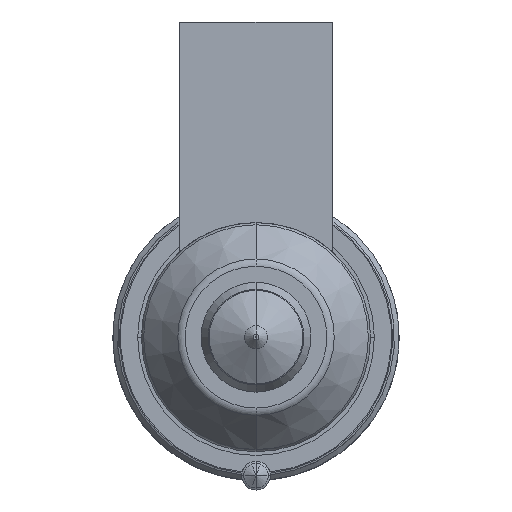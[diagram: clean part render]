
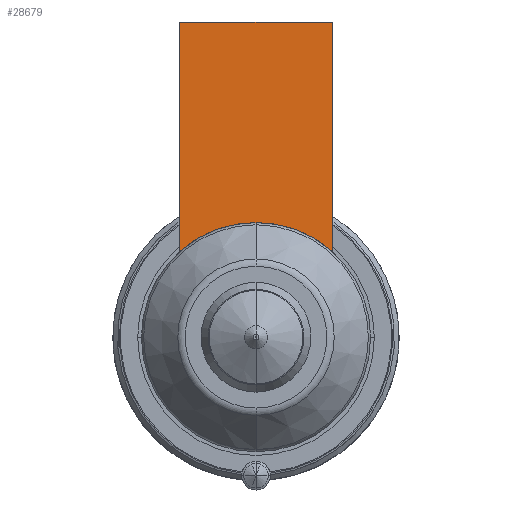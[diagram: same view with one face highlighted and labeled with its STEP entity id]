
A CAD part, front view. The second image highlights one B-rep face of the part: STEP entity #28679.
In plain terms, the highlighted planar face has unit normal (0, -1, 0).
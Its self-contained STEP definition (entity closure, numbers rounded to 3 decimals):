
#27864=DIRECTION('',(0.,0.,-1.));
#27865=VECTOR('',#27864,24.056);
#27866=CARTESIAN_POINT('',(-8.,-56.,33.));
#27867=LINE('',#27866,#27865);
#27879=CARTESIAN_POINT('',(0.,-56.,0.));
#27880=DIRECTION('',(0.,-1.,0.));
#27881=DIRECTION('',(0.,0.,1.));
#27882=AXIS2_PLACEMENT_3D('',#27879,#27880,#27881);
#27887=DIRECTION('',(1.,0.,0.));
#27888=VECTOR('',#27887,16.);
#27889=CARTESIAN_POINT('',(-8.,-56.,33.));
#27890=LINE('',#27889,#27888);
#27894=CARTESIAN_POINT('',(0.,-56.,0.));
#27895=DIRECTION('',(0.,-1.,0.));
#27896=DIRECTION('',(0.667,0.,0.745));
#27897=AXIS2_PLACEMENT_3D('',#27894,#27895,#27896);
#28043=DIRECTION('',(0.,0.,-1.));
#28044=VECTOR('',#28043,24.056);
#28045=CARTESIAN_POINT('',(8.,-56.,33.));
#28046=LINE('',#28045,#28044);
#28594=CARTESIAN_POINT('',(-8.,-56.,33.));
#28595=VERTEX_POINT('',#28594);
#28600=CARTESIAN_POINT('',(8.,-56.,33.));
#28601=VERTEX_POINT('',#28600);
#28603=CARTESIAN_POINT('',(-8.,-56.,8.944));
#28605=VERTEX_POINT('',#28603);
#28607=CARTESIAN_POINT('',(8.,-56.,8.944));
#28609=VERTEX_POINT('',#28607);
#28612=CARTESIAN_POINT('',(0.,-56.,12.));
#28613=VERTEX_POINT('',#28612);
#28664=CARTESIAN_POINT('',(-8.,-56.,33.));
#28665=DIRECTION('',(0.,-1.,0.));
#28666=DIRECTION('',(0.,0.,-1.));
#28667=AXIS2_PLACEMENT_3D('',#28664,#28665,#28666);
#28668=PLANE('',#28667);
#28669=ORIENTED_EDGE('',*,*,#28643,.T.);
#28670=ORIENTED_EDGE('',*,*,#28632,.F.);
#28672=ORIENTED_EDGE('',*,*,#28671,.T.);
#28674=ORIENTED_EDGE('',*,*,#28673,.T.);
#28676=ORIENTED_EDGE('',*,*,#28675,.T.);
#28677=EDGE_LOOP('',(#28669,#28670,#28672,#28674,#28676));
#28678=FACE_OUTER_BOUND('',#28677,.F.);
#28679=ADVANCED_FACE('',(#28678),#28668,.T.);
#27883=CIRCLE('',#27882,12.);
#27898=CIRCLE('',#27897,12.);
#28632=EDGE_CURVE('',#28595,#28605,#27867,.T.);
#28643=EDGE_CURVE('',#28613,#28605,#27883,.T.);
#28671=EDGE_CURVE('',#28595,#28601,#27890,.T.);
#28673=EDGE_CURVE('',#28601,#28609,#28046,.T.);
#28675=EDGE_CURVE('',#28609,#28613,#27898,.T.);
